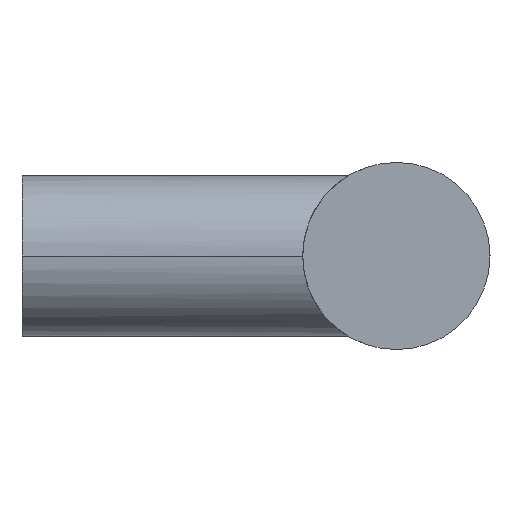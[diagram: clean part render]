
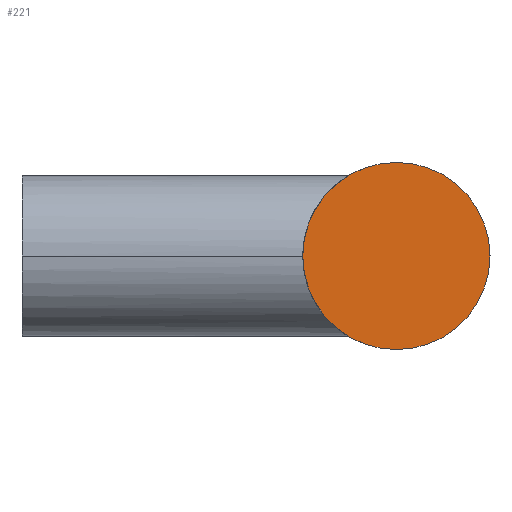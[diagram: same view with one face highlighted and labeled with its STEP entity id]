
A CAD part, left-side view. The second image highlights one B-rep face of the part: STEP entity #221.
In plain terms, the highlighted planar face has unit normal (-1, 0, 0).
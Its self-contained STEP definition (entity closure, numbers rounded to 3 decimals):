
#107 = EDGE_CURVE( '', #227, #223, #270, .T. );
#121 = EDGE_CURVE( '', #223, #227, #286, .T. );
#221 = ADVANCED_FACE( '', ( #398 ), #399, .F. );
#223 = VERTEX_POINT( '', #401 );
#227 = VERTEX_POINT( '', #405 );
#270 = CIRCLE( '', #459, 7. );
#286 = CIRCLE( '', #477, 7. );
#398 = FACE_OUTER_BOUND( '', #739, .T. );
#399 = PLANE( '', #740 );
#401 = CARTESIAN_POINT( '', ( -30., -28., 7. ) );
#405 = CARTESIAN_POINT( '', ( -30., -28., -7. ) );
#459 = AXIS2_PLACEMENT_3D( '', #785, #786, #787 );
#477 = AXIS2_PLACEMENT_3D( '', #807, #808, #809 );
#739 = EDGE_LOOP( '', ( #934, #935 ) );
#740 = AXIS2_PLACEMENT_3D( '', #936, #937, #938 );
#785 = CARTESIAN_POINT( '', ( -30., -28., 0. ) );
#786 = DIRECTION( '', ( 1., 0., 0. ) );
#787 = DIRECTION( '', ( 0., 0., -1. ) );
#807 = CARTESIAN_POINT( '', ( -30., -28., 0. ) );
#808 = DIRECTION( '', ( 1., 0., 0. ) );
#809 = DIRECTION( '', ( 0., 0., -1. ) );
#934 = ORIENTED_EDGE( '', *, *, #107, .F. );
#935 = ORIENTED_EDGE( '', *, *, #121, .F. );
#936 = CARTESIAN_POINT( '', ( -30., 0., 0. ) );
#937 = DIRECTION( '', ( 1., 0., 0. ) );
#938 = DIRECTION( '', ( 0., 0., -1. ) );
